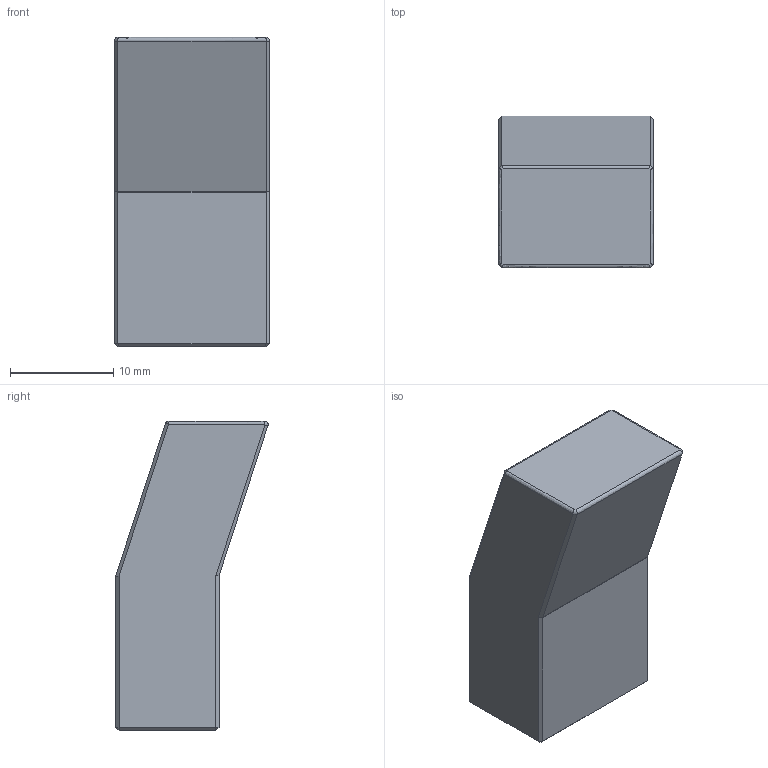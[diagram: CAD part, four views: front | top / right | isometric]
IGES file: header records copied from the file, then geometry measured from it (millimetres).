
Global section: file name: E:\UnigraphicsGraphicData\MISUMI_MOLD-PARTS\NX\3d_ance10_b15_l30_k18_00920_r00.igs; native system: NX V5.0; preprocessor: UGS NX IGES V5.0; author: MISUMI; date: 20101115.182445; units: millimetre
Bounding box: 15 x 14.76 x 30 mm (x, y, z)
Surface area: 2029.2 mm2 (no closed solid volume)
Topology: 0 solids, 0 shells, 37 faces, 207 edges, 206 vertices
Faces by surface type: bspline 37
